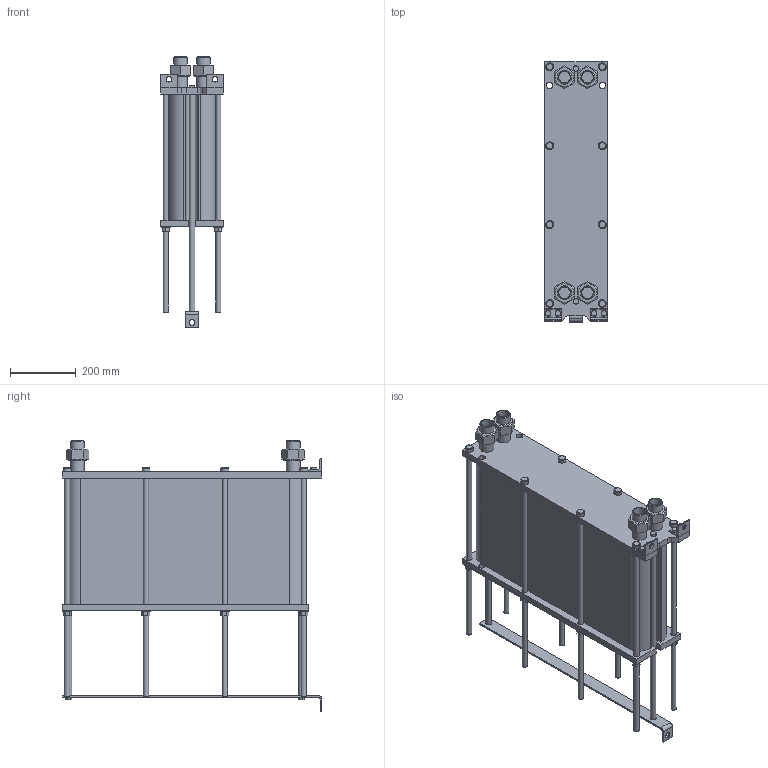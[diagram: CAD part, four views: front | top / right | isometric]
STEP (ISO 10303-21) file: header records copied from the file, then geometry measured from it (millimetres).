
FILE_DESCRIPTION(/* description */ (''),/* implementation_level */ '2;1');
FILE_NAME(/* name */ 'C:\Users\zhuro\Desktop\ENCO\TO\ЭН-008\ЭН-0,5-008-124-1.stp',/* time_stamp */ '2022-06-06T10:57:15+03:00',/* author */ ('zhuro'),/* organization */ (''),/* preprocessor_version */ 'ST-DEVELOPER v18.1',/* originating_system */ 'Autodesk Inventor 2022',/* authorisation */ '');
FILE_SCHEMA (('AUTOMOTIVE_DESIGN { 1 0 10303 214 3 1 1 }'));
Length unit declared in the file: millimetre
Products named in the file (1): ЭН-0,5-008-124-1
Bounding box: 190 x 790 x 824.2 mm (x, y, z)
Volume: 46256325.5 mm3; surface area: 2224536.7 mm2
Topology: 40 solids, 40 shells, 428 faces, 924 edges, 606 vertices
Faces by surface type: plane 273, cylinder 109, cone 40, torus 6
Full cylindrical faces by diameter (mm): 12 x6, 14 x2, 16 x20, 17 x8, 18 x19, 20 x5, 24 x8, 28 x8, 34.3 x8, 42.3 x8
Entity records: 15843 total; most frequent: CARTESIAN_POINT 5991, DIRECTION 1984, ORIENTED_EDGE 1848, EDGE_CURVE 924, AXIS2_PLACEMENT_3D 715, VERTEX_POINT 606, LINE 554, VECTOR 554
